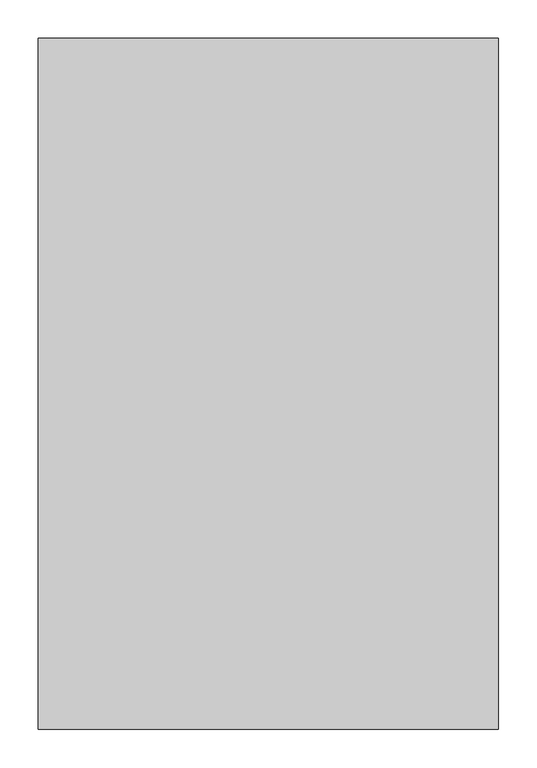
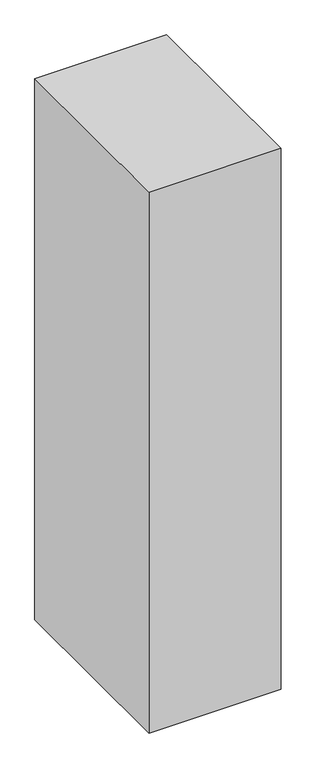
"""IFC4 building model written with IfcOpenShell, lengths in millimetres: furniture geometry, Fu_шкаф 1-с : Шкаф 1-створчатый."""

from ifc_helpers import new_model, si_unit, origin, origin_with_axes, place, context, project, spatial, polyline, outline, extrude, source, transform, mapped, element, save


def furniture_ec166d57(model_context):
    return source(origin(), model_context, "Body", "SweptSolid", [
        extrude(outline(polyline([(600.0, 0.0), (0.0, 0.0), (0.0, 900.0), (600.0, 900.0), (600.0, 0.0)])), origin_with_axes(), (0.0, 0.0, 1.0), 2600.0),
    ])


if __name__ == "__main__":
    model = new_model("IFC4")
    model_context = context("Model", 3, world=origin())
    ifc_project = project(units=[si_unit("LENGTHUNIT", "METRE", prefix="MILLI")], contexts=[model_context])
    site = spatial("IfcSite", under=ifc_project)
    building = spatial("IfcBuilding", under=site)
    placement = place(None, origin())
    furniture_shape = furniture_ec166d57(model_context)
    element("IfcFurniture", 1, ObjectType="Fu_шкаф 1-с : Шкаф 1-створчатый", at=placement, inside=building, context=model_context, shape_type="MappedRepresentation", body=[
        mapped(furniture_shape, transform((0.0, 0.0, 0.0), x_axis=(1.0, 0.0, 0.0), y_axis=(0.0, 1.0, 0.0), z_axis=(0.0, 0.0, 1.0))),
    ])
    save(model, "model.ifc")
